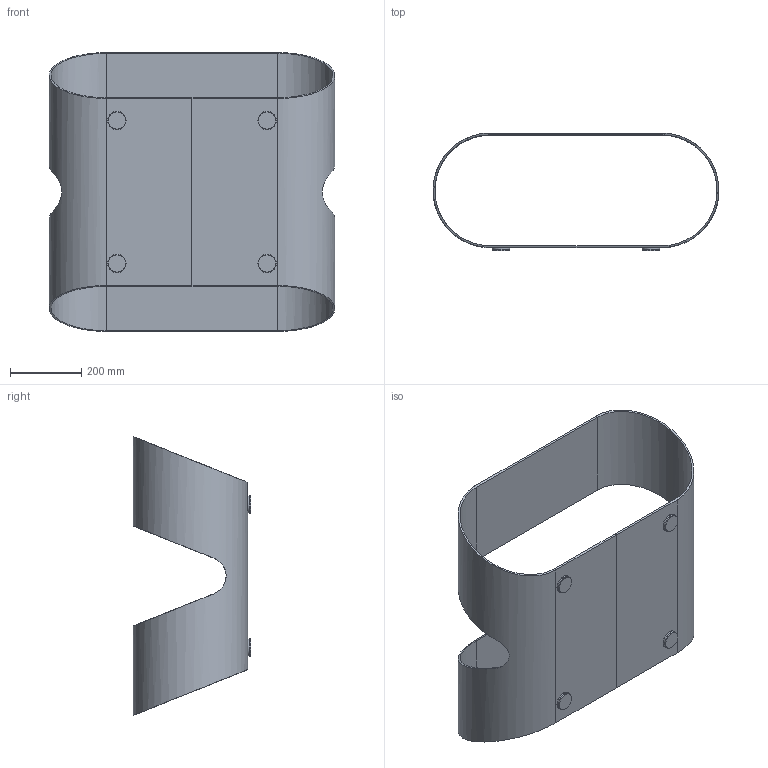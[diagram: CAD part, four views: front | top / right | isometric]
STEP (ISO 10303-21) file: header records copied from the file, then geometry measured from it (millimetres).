
FILE_DESCRIPTION(/* description */ (''),/* implementation_level */ '2;1');
FILE_NAME(/* name */ 'C:\AutodeskVault\AreaLavoro\Progetti\SoVeT Italia\2. Tavolini_Coffee tables\Ring\Web file\Nome articolo Web\P4360-BA1.stp',/* time_stamp */ '2015-01-23T13:56:14+01:00',/* author */ ('Gianluca'),/* organization */ ('So.Ve.T. s.r.l.'),/* preprocessor_version */ 'ST-DEVELOPER v15.2',/* originating_system */ 'Autodesk Inventor 2014',/* authorisation */ 'IL PROGETTO E'' DI ESCLUSIVA PROPRIETA'' DELLA SO.VE.T. srl. E'' VIETATA OGNI RIPRODUZIONE TOTALE O PARZIALE E QUALSIASI UTILIZZO NON AUTORIZZATO.');
FILE_SCHEMA (('AUTOMOTIVE_DESIGN { 1 0 10303 214 3 1 1 }'));
Length unit declared in the file: centimetre
Products named in the file (1): P4360-BA1 Contorno semplificato
Bounding box: 799.48 x 329 x 780 mm (x, y, z)
Volume: 5068931.8 mm3; surface area: 2045060.8 mm2
Topology: 1 solids, 1 shells, 44 faces, 104 edges, 68 vertices
Faces by surface type: plane 22, cylinder 14, cone 8
Full cylindrical faces by diameter (mm): 48 x4, 50 x4
Entity records: 1449 total; most frequent: CARTESIAN_POINT 397, DIRECTION 210, ORIENTED_EDGE 168, AXIS2_PLACEMENT_3D 85, EDGE_CURVE 84, EDGE_LOOP 68, VERTEX_POINT 64, STYLED_ITEM 45
